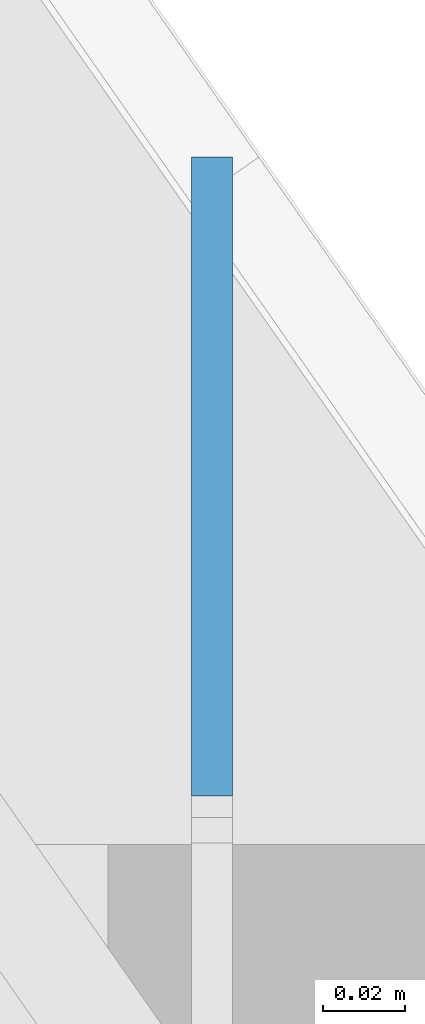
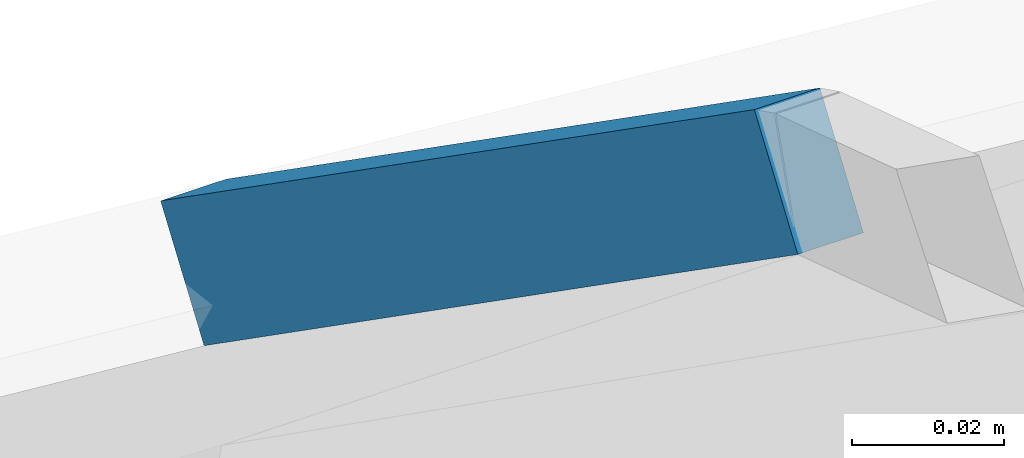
# One storey, part 313 of 583: 1 slab.
"""IFC2X3 building model written with IfcOpenShell, lengths in metres."""

from ifc_helpers import new_model, entity, si_unit, converted_unit, derived_unit, money_unit, direction, frame, origin_with_axes, place, context, subcontext, project, spatial, faceted_brep, material, type_object, element, save


model = new_model("IFC2X3")

# Units and contexts
model_context = context("Model", 3, precision=1e-05, world=origin_with_axes(), true_north=direction((0.0, 1.0)))
body_context = subcontext(model_context, "Body", "Model", "MODEL_VIEW", scale=1.0)
ifc_project = project(units=[si_unit("LENGTHUNIT", "METRE"), si_unit("AREAUNIT", "SQUARE_METRE"), si_unit("VOLUMEUNIT", "CUBIC_METRE"), si_unit("ABSORBEDDOSEUNIT", "GRAY"), si_unit("AMOUNTOFSUBSTANCEUNIT", "MOLE"), si_unit("DOSEEQUIVALENTUNIT", "SIEVERT"), si_unit("ELECTRICCAPACITANCEUNIT", "FARAD"), si_unit("ELECTRICCHARGEUNIT", "COULOMB"), si_unit("ELECTRICCONDUCTANCEUNIT", "SIEMENS"), si_unit("ELECTRICCURRENTUNIT", "AMPERE"), si_unit("ELECTRICRESISTANCEUNIT", "OHM"), si_unit("ELECTRICVOLTAGEUNIT", "VOLT"), si_unit("ENERGYUNIT", "JOULE"), si_unit("FORCEUNIT", "NEWTON"), si_unit("FREQUENCYUNIT", "HERTZ"), si_unit("ILLUMINANCEUNIT", "LUX"), si_unit("INDUCTANCEUNIT", "HENRY"), si_unit("LUMINOUSFLUXUNIT", "LUMEN"), si_unit("LUMINOUSINTENSITYUNIT", "CANDELA"), si_unit("MAGNETICFLUXDENSITYUNIT", "TESLA"), si_unit("MAGNETICFLUXUNIT", "WEBER"), si_unit("MASSUNIT", "GRAM"), converted_unit("PLANEANGLEUNIT", "degree", entity("IfcReal", 0.0174532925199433), si_unit("PLANEANGLEUNIT", "RADIAN"), dimensions=[0, 0, 0, 0, 0, 0, 0]), si_unit("POWERUNIT", "WATT"), si_unit("PRESSUREUNIT", "PASCAL"), si_unit("RADIOACTIVITYUNIT", "BECQUEREL"), si_unit("SOLIDANGLEUNIT", "STERADIAN"), si_unit("THERMODYNAMICTEMPERATUREUNIT", "KELVIN"), si_unit("TIMEUNIT", "SECOND"), derived_unit("ACCELERATIONUNIT", [(si_unit("LENGTHUNIT", "METRE"), 1), (si_unit("TIMEUNIT", "SECOND"), -2)]), derived_unit("ANGULARVELOCITYUNIT", [(converted_unit("PLANEANGLEUNIT", "degree", entity("IfcReal", 0.0174532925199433), si_unit("PLANEANGLEUNIT", "RADIAN"), dimensions=[0, 0, 0, 0, 0, 0, 0]), 1), (si_unit("TIMEUNIT", "SECOND"), -1)]), derived_unit("CURVATUREUNIT", [(converted_unit("PLANEANGLEUNIT", "degree", entity("IfcReal", 0.0174532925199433), si_unit("PLANEANGLEUNIT", "RADIAN"), dimensions=[0, 0, 0, 0, 0, 0, 0]), 1), (si_unit("LENGTHUNIT", "METRE"), -1)]), derived_unit("DYNAMICVISCOSITYUNIT", [(si_unit("PRESSUREUNIT", "PASCAL"), 1), (si_unit("TIMEUNIT", "SECOND"), 1)]), derived_unit("HEATFLUXDENSITYUNIT", [(si_unit("POWERUNIT", "WATT"), 1), (si_unit("LENGTHUNIT", "METRE"), -2)]), derived_unit("HEATINGVALUEUNIT", [(si_unit("ENERGYUNIT", "JOULE"), 1), (si_unit("MASSUNIT", "GRAM"), -1)]), derived_unit("INTEGERCOUNTRATEUNIT", [(si_unit("TIMEUNIT", "SECOND"), -1)]), derived_unit("IONCONCENTRATIONUNIT", [(si_unit("MASSUNIT", "GRAM"), 1), (si_unit("VOLUMEUNIT", "CUBIC_METRE"), -1)]), derived_unit("ISOTHERMALMOISTURECAPACITYUNIT", [(si_unit("VOLUMEUNIT", "CUBIC_METRE"), 1), (si_unit("MASSUNIT", "GRAM"), -1)]), derived_unit("KINEMATICVISCOSITYUNIT", [(si_unit("AREAUNIT", "SQUARE_METRE"), 1), (si_unit("TIMEUNIT", "SECOND"), -1)]), derived_unit("LINEARFORCEUNIT", [(si_unit("FORCEUNIT", "NEWTON"), 1), (si_unit("LENGTHUNIT", "METRE"), -1)]), derived_unit("LINEARMOMENTUNIT", [(si_unit("FORCEUNIT", "NEWTON"), 1), (si_unit("LENGTHUNIT", "METRE"), -1)]), derived_unit("LINEARSTIFFNESSUNIT", [(si_unit("FORCEUNIT", "NEWTON"), 1), (si_unit("LENGTHUNIT", "METRE"), -1)]), derived_unit("LINEARVELOCITYUNIT", [(si_unit("LENGTHUNIT", "METRE"), 1), (si_unit("TIMEUNIT", "SECOND"), -1)]), derived_unit("LUMINOUSINTENSITYDISTRIBUTIONUNIT", [(si_unit("LUMINOUSINTENSITYUNIT", "CANDELA"), 1), (si_unit("LUMINOUSFLUXUNIT", "LUMEN"), -1)]), derived_unit("MASSDENSITYUNIT", [(si_unit("MASSUNIT", "GRAM"), 1), (si_unit("VOLUMEUNIT", "CUBIC_METRE"), -1)]), derived_unit("MASSFLOWRATEUNIT", [(si_unit("MASSUNIT", "GRAM"), 1), (si_unit("TIMEUNIT", "SECOND"), -1)]), derived_unit("MASSPERLENGTHUNIT", [(si_unit("MASSUNIT", "GRAM"), 1), (si_unit("LENGTHUNIT", "METRE"), -1)]), derived_unit("MODULUSOFELASTICITYUNIT", [(si_unit("FORCEUNIT", "NEWTON"), 1), (si_unit("AREAUNIT", "SQUARE_METRE"), -1)]), derived_unit("MODULUSOFLINEARSUBGRADEREACTIONUNIT", [(si_unit("FORCEUNIT", "NEWTON"), 1), (si_unit("LENGTHUNIT", "METRE"), -2)]), derived_unit("MODULUSOFROTATIONALSUBGRADEREACTIONUNIT", [(si_unit("FORCEUNIT", "NEWTON"), 1), (si_unit("LENGTHUNIT", "METRE"), 1)]), derived_unit("MODULUSOFSUBGRADEREACTIONUNIT", [(si_unit("FORCEUNIT", "NEWTON"), 1), (si_unit("VOLUMEUNIT", "CUBIC_METRE"), -1)]), derived_unit("MOISTUREDIFFUSIVITYUNIT", [(si_unit("VOLUMEUNIT", "CUBIC_METRE"), 1), (si_unit("TIMEUNIT", "SECOND"), -1)]), derived_unit("MOLECULARWEIGHTUNIT", [(si_unit("MASSUNIT", "GRAM"), 1), (si_unit("AMOUNTOFSUBSTANCEUNIT", "MOLE"), -1)]), derived_unit("PLANARFORCEUNIT", [(si_unit("FORCEUNIT", "NEWTON"), 1), (si_unit("LENGTHUNIT", "METRE"), -2)]), derived_unit("ROTATIONALFREQUENCYUNIT", [(si_unit("TIMEUNIT", "SECOND"), -1)]), derived_unit("ROTATIONALMASSUNIT", [(si_unit("MASSUNIT", "GRAM"), 1), (si_unit("LENGTHUNIT", "METRE"), 2)]), derived_unit("ROTATIONALSTIFFNESSUNIT", [(si_unit("FORCEUNIT", "NEWTON"), 1), (si_unit("LENGTHUNIT", "METRE"), 1), (converted_unit("PLANEANGLEUNIT", "degree", entity("IfcReal", 0.0174532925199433), si_unit("PLANEANGLEUNIT", "RADIAN"), dimensions=[0, 0, 0, 0, 0, 0, 0]), -1)]), derived_unit("SECTIONAREAINTEGRALUNIT", [(si_unit("LENGTHUNIT", "METRE"), 5)]), derived_unit("SECTIONMODULUSUNIT", [(si_unit("LENGTHUNIT", "METRE"), 3)]), derived_unit("SHEARMODULUSUNIT", [(si_unit("FORCEUNIT", "NEWTON"), 1), (si_unit("AREAUNIT", "SQUARE_METRE"), -1)]), derived_unit("SOUNDPOWERUNIT", [(si_unit("ENERGYUNIT", "JOULE"), 1), (si_unit("TIMEUNIT", "SECOND"), -1)]), derived_unit("SPECIFICHEATCAPACITYUNIT", [(si_unit("FORCEUNIT", "NEWTON"), 1), (si_unit("MASSUNIT", "GRAM"), -1), (si_unit("THERMODYNAMICTEMPERATUREUNIT", "KELVIN"), -1)]), derived_unit("TEMPERATUREGRADIENTUNIT", [(si_unit("THERMODYNAMICTEMPERATUREUNIT", "KELVIN"), 1), (si_unit("LENGTHUNIT", "METRE"), -1)]), derived_unit("THERMALADMITTANCEUNIT", [(si_unit("POWERUNIT", "WATT"), 1), (si_unit("AREAUNIT", "SQUARE_METRE"), -1), (si_unit("THERMODYNAMICTEMPERATUREUNIT", "KELVIN"), -1)]), derived_unit("THERMALCONDUCTANCEUNIT", [(si_unit("POWERUNIT", "WATT"), 1), (si_unit("LENGTHUNIT", "METRE"), -1), (si_unit("THERMODYNAMICTEMPERATUREUNIT", "KELVIN"), -1)]), derived_unit("THERMALEXPANSIONCOEFFICIENTUNIT", [(si_unit("THERMODYNAMICTEMPERATUREUNIT", "KELVIN"), -1)]), derived_unit("THERMALRESISTANCEUNIT", [(si_unit("AREAUNIT", "SQUARE_METRE"), 1), (si_unit("POWERUNIT", "WATT"), -1)]), derived_unit("THERMALTRANSMITTANCEUNIT", [(si_unit("POWERUNIT", "WATT"), 1), (si_unit("AREAUNIT", "SQUARE_METRE"), -1), (si_unit("THERMODYNAMICTEMPERATUREUNIT", "KELVIN"), -1)]), derived_unit("TORQUEUNIT", [(si_unit("FORCEUNIT", "NEWTON"), 1), (si_unit("LENGTHUNIT", "METRE"), 1)]), derived_unit("VAPORPERMEABILITYUNIT", [(si_unit("MASSUNIT", "GRAM"), 1), (si_unit("TIMEUNIT", "SECOND"), -1)]), derived_unit("VOLUMETRICFLOWRATEUNIT", [(si_unit("VOLUMEUNIT", "CUBIC_METRE"), 1), (si_unit("TIMEUNIT", "SECOND"), -1)]), derived_unit("WARPINGCONSTANTUNIT", [(si_unit("LENGTHUNIT", "METRE"), 6)]), derived_unit("WARPINGMOMENTUNIT", [(si_unit("FORCEUNIT", "NEWTON"), 1), (si_unit("LENGTHUNIT", "METRE"), 2)]), money_unit("GBP")], contexts=[model_context])

# Site, building, storey
site_placement = place(None, origin_with_axes())
site = spatial("IfcSite", under=ifc_project, at=site_placement, Name="Site", CompositionType="ELEMENT")
building_placement = place(site_placement, origin_with_axes())
building = spatial("IfcBuilding", under=site, at=building_placement, Name="Building01", CompositionType="ELEMENT")
storey_placement = place(building_placement, frame((0.0, 0.0, 20.78), z_axis=(0.0, 0.0, 1.0), x_axis=(1.0, 0.0, 0.0)))
storey = spatial("IfcBuildingStorey", under=building, at=storey_placement, Name="RL", CompositionType="ELEMENT", Elevation=20.78)

# Slab
ifc_material = material(Name="A_BSUK_Roofs")
slab_type = type_object("IfcSlabType", Name="A-FloorsSlabs A_BSUK_Slabs", PredefinedType="FLOOR")
slab_placement = place(storey_placement, frame((13.455953, 18.780461, 4.86574), z_axis=(0.0, 1.0, 0.0), x_axis=(1.0, 0.0, 0.0)))
element("IfcSlab", 1, at=slab_placement, inside=storey, type_object=slab_type, material=ifc_material, Name="A-FloorsSlabs A_BSUK_Slabs", ObjectType="A-FloorsSlabs A_BSUK_Slabs", context=body_context, shape_type="Brep", body=[
    faceted_brep([(0.0, 0.0, 0.0), (0.0, -0.016383, 0.011472), (0.0, 0.093332, 0.168161), (0.0, 0.109715, 0.15669), (0.01, 0.0, 0.0), (0.01, -0.016383, 0.011472), (0.01, 0.109715, 0.15669), (0.01, 0.093332, 0.168161)], [[[0, 1, 2, 3]], [[4, 5, 1, 0]], [[6, 7, 5, 4]], [[3, 2, 7, 6]], [[1, 5, 7, 2]], [[3, 6, 4, 0]]]),
])

save(model, "model.ifc")
